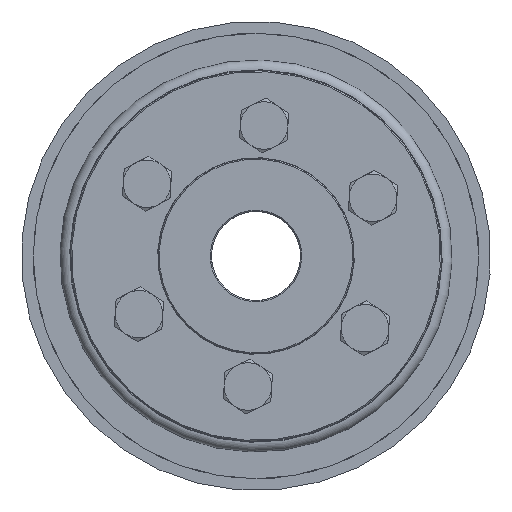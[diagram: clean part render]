
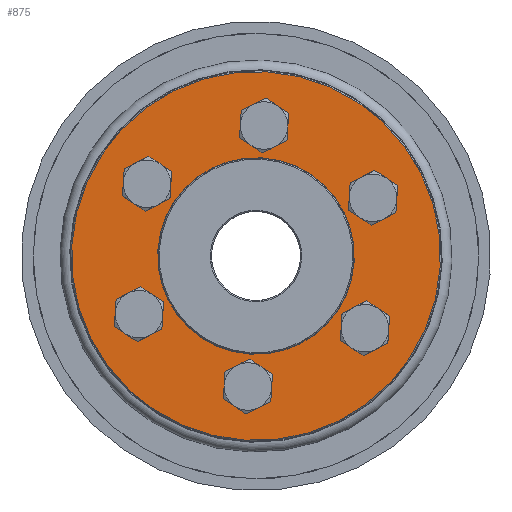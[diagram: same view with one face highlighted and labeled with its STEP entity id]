
A CAD part, left-side view. The second image highlights one B-rep face of the part: STEP entity #875.
In plain terms, the highlighted planar face has unit normal (-1, 0, 0).
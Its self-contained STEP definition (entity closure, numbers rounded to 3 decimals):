
#875 = ADVANCED_FACE( 'NONE', ( #1711, #1712, #1713, #1714, #1715, #1716, #1717, #1718 ), #1719, .F. );
#1711 = FACE_OUTER_BOUND( '', #2618, .T. );
#1712 = FACE_BOUND( '', #2619, .T. );
#1713 = FACE_BOUND( '', #2620, .T. );
#1714 = FACE_BOUND( '', #2621, .T. );
#1715 = FACE_BOUND( '', #2622, .T. );
#1716 = FACE_BOUND( '', #2623, .T. );
#1717 = FACE_BOUND( '', #2624, .T. );
#1718 = FACE_BOUND( '', #2625, .T. );
#1719 = PLANE( '', #2626 );
#2618 = EDGE_LOOP( '', ( #3768 ) );
#2619 = EDGE_LOOP( '', ( #3769 ) );
#2620 = EDGE_LOOP( '', ( #3770 ) );
#2621 = EDGE_LOOP( '', ( #3771 ) );
#2622 = EDGE_LOOP( '', ( #3772 ) );
#2623 = EDGE_LOOP( '', ( #3773 ) );
#2624 = EDGE_LOOP( '', ( #3774 ) );
#2625 = EDGE_LOOP( '', ( #3775 ) );
#2626 = AXIS2_PLACEMENT_3D( '', #3776, #3777, #3778 );
#3768 = ORIENTED_EDGE( '', *, *, #4723, .T. );
#3769 = ORIENTED_EDGE( '', *, *, #4693, .T. );
#3770 = ORIENTED_EDGE( '', *, *, #4696, .T. );
#3771 = ORIENTED_EDGE( '', *, *, #4724, .T. );
#3772 = ORIENTED_EDGE( '', *, *, #4654, .T. );
#3773 = ORIENTED_EDGE( '', *, *, #4660, .T. );
#3774 = ORIENTED_EDGE( '', *, *, #4725, .T. );
#3775 = ORIENTED_EDGE( '', *, *, #4726, .F. );
#3776 = CARTESIAN_POINT( '', ( 0., 16.5, 0. ) );
#3777 = DIRECTION( '', ( 1., 0., 0. ) );
#3778 = DIRECTION( '', ( 0., 1., 0. ) );
#4654 = EDGE_CURVE( 'NONE', #5323, #5323, #5324, .T. );
#4660 = EDGE_CURVE( 'NONE', #5332, #5332, #5333, .T. );
#4693 = EDGE_CURVE( 'NONE', #5382, #5382, #5383, .T. );
#4696 = EDGE_CURVE( 'NONE', #5387, #5387, #5388, .T. );
#4723 = EDGE_CURVE( 'NONE', #5422, #5422, #5423, .T. );
#4724 = EDGE_CURVE( 'NONE', #5424, #5424, #5425, .T. );
#4725 = EDGE_CURVE( 'NONE', #5426, #5426, #5427, .T. );
#4726 = EDGE_CURVE( 'NONE', #5428, #5428, #5429, .T. );
#5323 = VERTEX_POINT( '', #6478 );
#5324 = CIRCLE( '', #6479, 2.75 );
#5332 = VERTEX_POINT( '', #6487 );
#5333 = CIRCLE( '', #6488, 2.75 );
#5382 = VERTEX_POINT( '', #6550 );
#5383 = CIRCLE( '', #6551, 2.75 );
#5387 = VERTEX_POINT( '', #6555 );
#5388 = CIRCLE( '', #6556, 2.75 );
#5422 = VERTEX_POINT( '', #6592 );
#5423 = CIRCLE( '', #6593, 31.05 );
#5424 = VERTEX_POINT( '', #6594 );
#5425 = CIRCLE( '', #6595, 2.75 );
#5426 = VERTEX_POINT( '', #6596 );
#5427 = CIRCLE( '', #6597, 2.75 );
#5428 = VERTEX_POINT( '', #6598 );
#5429 = CIRCLE( '', #6599, 16.5 );
#6478 = CARTESIAN_POINT( '', ( 0., -11., -21.803 ) );
#6479 = AXIS2_PLACEMENT_3D( '', #7265, #7266, #7267 );
#6487 = CARTESIAN_POINT( '', ( 0., 11., -21.803 ) );
#6488 = AXIS2_PLACEMENT_3D( '', #7274, #7275, #7276 );
#6550 = CARTESIAN_POINT( '', ( 0., 11., 16.303 ) );
#6551 = AXIS2_PLACEMENT_3D( '', #7326, #7327, #7328 );
#6555 = CARTESIAN_POINT( '', ( 0., -11., 16.303 ) );
#6556 = AXIS2_PLACEMENT_3D( '', #7332, #7333, #7334 );
#6592 = CARTESIAN_POINT( '', ( 0., 0., -31.05 ) );
#6593 = AXIS2_PLACEMENT_3D( '', #7364, #7365, #7366 );
#6594 = CARTESIAN_POINT( '', ( 0., -22., -2.75 ) );
#6595 = AXIS2_PLACEMENT_3D( '', #7367, #7368, #7369 );
#6596 = CARTESIAN_POINT( '', ( 0., 22., -2.75 ) );
#6597 = AXIS2_PLACEMENT_3D( '', #7370, #7371, #7372 );
#6598 = CARTESIAN_POINT( '', ( 0., 0., 16.5 ) );
#6599 = AXIS2_PLACEMENT_3D( '', #7373, #7374, #7375 );
#7265 = CARTESIAN_POINT( '', ( 0., -11., -19.053 ) );
#7266 = DIRECTION( '', ( 1., 0., 0. ) );
#7267 = DIRECTION( '', ( 0., 0., -1. ) );
#7274 = CARTESIAN_POINT( '', ( 0., 11., -19.053 ) );
#7275 = DIRECTION( '', ( 1., 0., 0. ) );
#7276 = DIRECTION( '', ( 0., 0., -1. ) );
#7326 = CARTESIAN_POINT( '', ( 0., 11., 19.053 ) );
#7327 = DIRECTION( '', ( 1., 0., 0. ) );
#7328 = DIRECTION( '', ( 0., 0., -1. ) );
#7332 = CARTESIAN_POINT( '', ( 0., -11., 19.053 ) );
#7333 = DIRECTION( '', ( 1., 0., 0. ) );
#7334 = DIRECTION( '', ( 0., 0., -1. ) );
#7364 = CARTESIAN_POINT( '', ( 0., 0., 0. ) );
#7365 = DIRECTION( '', ( -1., 0., 0. ) );
#7366 = DIRECTION( '', ( 0., 0., -1. ) );
#7367 = CARTESIAN_POINT( '', ( 0., -22., 0. ) );
#7368 = DIRECTION( '', ( 1., 0., 0. ) );
#7369 = DIRECTION( '', ( 0., 0., -1. ) );
#7370 = CARTESIAN_POINT( '', ( 0., 22., 0. ) );
#7371 = DIRECTION( '', ( 1., 0., 0. ) );
#7372 = DIRECTION( '', ( 0., 0., -1. ) );
#7373 = CARTESIAN_POINT( '', ( 0., 0., 0. ) );
#7374 = DIRECTION( '', ( -1., 0., 0. ) );
#7375 = DIRECTION( '', ( 0., 0., 1. ) );
